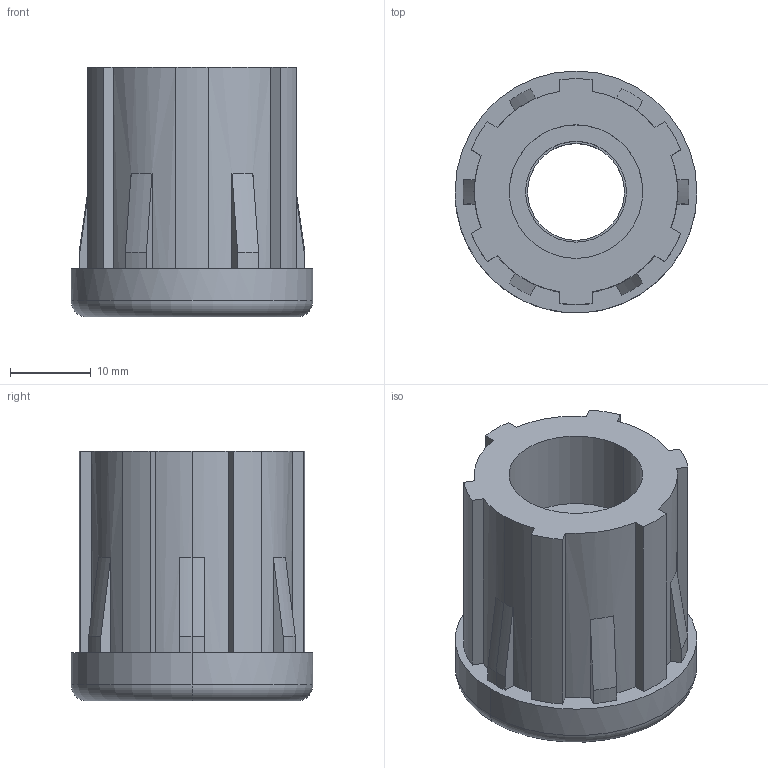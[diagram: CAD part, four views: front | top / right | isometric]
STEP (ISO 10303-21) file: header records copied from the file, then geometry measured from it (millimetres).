
FILE_DESCRIPTION(('STEP AP214'),'1');
FILE_NAME('42006430112.stp','2016-01-21T11:06:09',(' '),(' '),'Spatial InterOp 3D',' ',' ');
FILE_SCHEMA(('automotive_design'));
Length unit declared in the file: millimetre
Products named in the file (4): 42006430112; Disegno1; 64_80857; Component1
Assembly tree (3 placements, depth 3):
  42006430112
    Disegno1
    64_80857
      Component1
Bounding box: 30 x 30 x 31 mm (x, y, z)
Volume: 12903.1 mm3; surface area: 6630.4 mm2
Topology: 2 solids, 2 shells, 85 faces, 219 edges, 141 vertices
Faces by surface type: cylinder 36, plane 31, cone 14, torus 4
Entity records: 3397 total; most frequent: DIRECTION 484, CARTESIAN_POINT 474, ORIENTED_EDGE 438, EDGE_CURVE 219, AXIS2_PLACEMENT_3D 187, VERTEX_POINT 141, LINE 110, VECTOR 110
